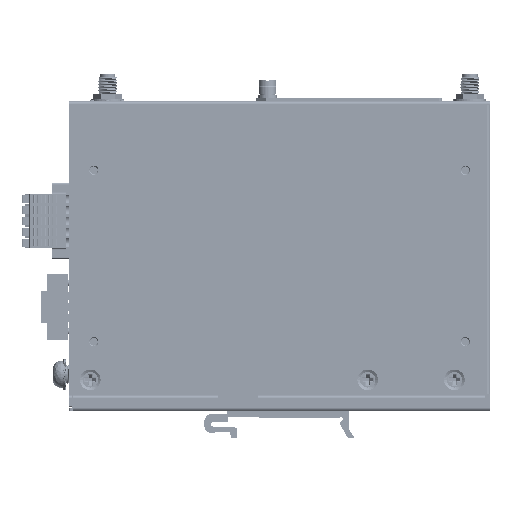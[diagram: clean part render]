
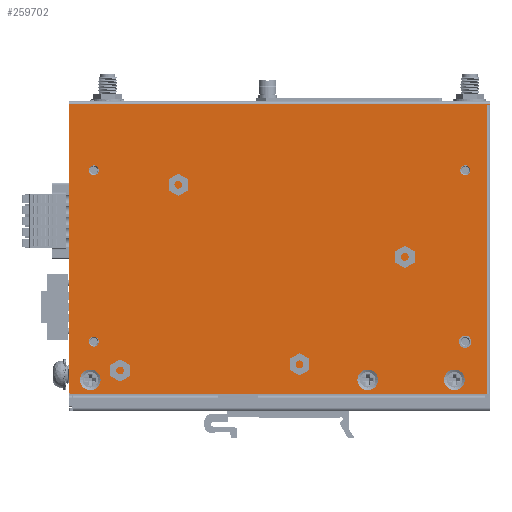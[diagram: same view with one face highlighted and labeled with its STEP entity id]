
A CAD part, front view. The second image highlights one B-rep face of the part: STEP entity #259702.
In plain terms, the highlighted planar face has unit normal (0, 1, 0).
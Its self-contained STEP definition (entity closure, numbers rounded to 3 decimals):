
#255037=DIRECTION('',(1.,0.,0.));
#255038=VECTOR('',#255037,134.);
#255039=CARTESIAN_POINT('',(-66.5,-6.,-45.2));
#255040=LINE('',#255039,#255038);
#255041=DIRECTION('',(1.,0.,0.));
#255042=VECTOR('',#255041,1.);
#255043=CARTESIAN_POINT('',(67.5,-6.,48.3));
#255044=LINE('',#255043,#255042);
#255045=DIRECTION('',(0.,0.,1.));
#255046=VECTOR('',#255045,0.2);
#255047=CARTESIAN_POINT('',(68.5,-6.,48.3));
#255048=LINE('',#255047,#255046);
#255049=DIRECTION('',(0.,0.,-1.));
#255050=VECTOR('',#255049,92.7);
#255051=CARTESIAN_POINT('',(-67.5,-6.,48.5));
#255052=LINE('',#255051,#255050);
#255053=CARTESIAN_POINT('',(-66.5,-6.,-44.2));
#255054=DIRECTION('',(0.,-1.,0.));
#255055=DIRECTION('',(-1.,0.,0.));
#255056=AXIS2_PLACEMENT_3D('',#255053,#255054,#255055);
#255058=CARTESIAN_POINT('',(29.,-6.,-40.5));
#255059=DIRECTION('',(0.,1.,0.));
#255060=DIRECTION('',(1.,0.,0.));
#255061=AXIS2_PLACEMENT_3D('',#255058,#255059,#255060);
#255063=CARTESIAN_POINT('',(29.,-6.,-40.5));
#255064=DIRECTION('',(0.,1.,0.));
#255065=DIRECTION('',(-1.,0.,0.));
#255066=AXIS2_PLACEMENT_3D('',#255063,#255064,#255065);
#255068=CARTESIAN_POINT('',(57.,-6.,-40.5));
#255069=DIRECTION('',(0.,1.,0.));
#255070=DIRECTION('',(-1.,0.,0.));
#255071=AXIS2_PLACEMENT_3D('',#255068,#255069,#255070);
#255073=CARTESIAN_POINT('',(57.,-6.,-40.5));
#255074=DIRECTION('',(0.,1.,0.));
#255075=DIRECTION('',(1.,0.,0.));
#255076=AXIS2_PLACEMENT_3D('',#255073,#255074,#255075);
#255078=CARTESIAN_POINT('',(-60.65,-6.,-40.5));
#255079=DIRECTION('',(0.,1.,0.));
#255080=DIRECTION('',(1.,0.,0.));
#255081=AXIS2_PLACEMENT_3D('',#255078,#255079,#255080);
#255083=CARTESIAN_POINT('',(-60.65,-6.,-40.5));
#255084=DIRECTION('',(0.,1.,0.));
#255085=DIRECTION('',(-1.,0.,0.));
#255086=AXIS2_PLACEMENT_3D('',#255083,#255084,#255085);
#255088=CARTESIAN_POINT('',(-59.5,-6.,27.2));
#255089=DIRECTION('',(0.,1.,0.));
#255090=DIRECTION('',(-1.,0.,0.));
#255091=AXIS2_PLACEMENT_3D('',#255088,#255089,#255090);
#255093=CARTESIAN_POINT('',(-59.5,-6.,27.2));
#255094=DIRECTION('',(0.,1.,0.));
#255095=DIRECTION('',(1.,0.,0.));
#255096=AXIS2_PLACEMENT_3D('',#255093,#255094,#255095);
#255098=CARTESIAN_POINT('',(-59.5,-6.,-28.2));
#255099=DIRECTION('',(0.,1.,0.));
#255100=DIRECTION('',(-1.,0.,0.));
#255101=AXIS2_PLACEMENT_3D('',#255098,#255099,#255100);
#255103=CARTESIAN_POINT('',(-59.5,-6.,-28.2));
#255104=DIRECTION('',(0.,1.,0.));
#255105=DIRECTION('',(1.,0.,0.));
#255106=AXIS2_PLACEMENT_3D('',#255103,#255104,#255105);
#255108=CARTESIAN_POINT('',(60.5,-6.,27.2));
#255109=DIRECTION('',(0.,1.,0.));
#255110=DIRECTION('',(-1.,0.,0.));
#255111=AXIS2_PLACEMENT_3D('',#255108,#255109,#255110);
#255113=CARTESIAN_POINT('',(60.5,-6.,27.2));
#255114=DIRECTION('',(0.,1.,0.));
#255115=DIRECTION('',(1.,0.,0.));
#255116=AXIS2_PLACEMENT_3D('',#255113,#255114,#255115);
#255118=CARTESIAN_POINT('',(60.5,-6.,-28.2));
#255119=DIRECTION('',(0.,1.,0.));
#255120=DIRECTION('',(-1.,0.,0.));
#255121=AXIS2_PLACEMENT_3D('',#255118,#255119,#255120);
#255123=CARTESIAN_POINT('',(60.5,-6.,-28.2));
#255124=DIRECTION('',(0.,1.,0.));
#255125=DIRECTION('',(1.,0.,0.));
#255126=AXIS2_PLACEMENT_3D('',#255123,#255124,#255125);
#255281=DIRECTION('',(0.,0.,1.));
#255282=VECTOR('',#255281,93.5);
#255283=CARTESIAN_POINT('',(67.5,-6.,-45.2));
#255284=LINE('',#255283,#255282);
#255784=DIRECTION('',(-1.,0.,0.));
#255785=VECTOR('',#255784,136.);
#255786=CARTESIAN_POINT('',(68.5,-6.,48.5));
#255787=LINE('',#255786,#255785);
#257679=CARTESIAN_POINT('',(67.5,-6.,48.3));
#257680=VERTEX_POINT('',#257679);
#258373=CARTESIAN_POINT('',(-57.318,-6.,-40.5));
#258374=CARTESIAN_POINT('',(-63.982,-6.,-40.5));
#258375=VERTEX_POINT('',#258373);
#258376=VERTEX_POINT('',#258374);
#258377=CARTESIAN_POINT('',(32.332,-6.,-40.5));
#258378=CARTESIAN_POINT('',(25.668,-6.,-40.5));
#258379=VERTEX_POINT('',#258377);
#258380=VERTEX_POINT('',#258378);
#258381=CARTESIAN_POINT('',(53.668,-6.,-40.5));
#258382=CARTESIAN_POINT('',(60.332,-6.,-40.5));
#258383=VERTEX_POINT('',#258381);
#258384=VERTEX_POINT('',#258382);
#258385=CARTESIAN_POINT('',(-67.5,-6.,48.5));
#258386=CARTESIAN_POINT('',(-67.5,-6.,-44.2));
#258387=VERTEX_POINT('',#258385);
#258388=VERTEX_POINT('',#258386);
#258389=CARTESIAN_POINT('',(-66.5,-6.,-45.2));
#258390=VERTEX_POINT('',#258389);
#258391=CARTESIAN_POINT('',(67.5,-6.,-45.2));
#258392=VERTEX_POINT('',#258391);
#258393=CARTESIAN_POINT('',(68.5,-6.,48.3));
#258394=VERTEX_POINT('',#258393);
#258395=CARTESIAN_POINT('',(68.5,-6.,48.5));
#258396=VERTEX_POINT('',#258395);
#258397=CARTESIAN_POINT('',(-61.1,-6.,27.2));
#258398=CARTESIAN_POINT('',(-57.9,-6.,27.2));
#258399=VERTEX_POINT('',#258397);
#258400=VERTEX_POINT('',#258398);
#258401=CARTESIAN_POINT('',(-61.1,-6.,-28.2));
#258402=CARTESIAN_POINT('',(-57.9,-6.,-28.2));
#258403=VERTEX_POINT('',#258401);
#258404=VERTEX_POINT('',#258402);
#258405=CARTESIAN_POINT('',(58.9,-6.,27.2));
#258406=CARTESIAN_POINT('',(62.1,-6.,27.2));
#258407=VERTEX_POINT('',#258405);
#258408=VERTEX_POINT('',#258406);
#258409=CARTESIAN_POINT('',(58.5,-6.,-28.2));
#258410=CARTESIAN_POINT('',(62.5,-6.,-28.2));
#258411=VERTEX_POINT('',#258409);
#258412=VERTEX_POINT('',#258410);
#259641=CARTESIAN_POINT('',(0.5,-6.,1.65));
#259642=DIRECTION('',(0.,1.,0.));
#259643=DIRECTION('',(1.,0.,0.));
#259644=AXIS2_PLACEMENT_3D('',#259641,#259642,#259643);
#259645=PLANE('',#259644);
#259647=ORIENTED_EDGE('',*,*,#259646,.T.);
#259649=ORIENTED_EDGE('',*,*,#259648,.T.);
#259650=ORIENTED_EDGE('',*,*,#259634,.T.);
#259651=ORIENTED_EDGE('',*,*,#259621,.T.);
#259653=ORIENTED_EDGE('',*,*,#259652,.T.);
#259655=ORIENTED_EDGE('',*,*,#259654,.T.);
#259657=ORIENTED_EDGE('',*,*,#259656,.T.);
#259658=EDGE_LOOP('',(#259647,#259649,#259650,#259651,#259653,#259655,#259657));
#259659=FACE_OUTER_BOUND('',#259658,.F.);
#259661=ORIENTED_EDGE('',*,*,#259660,.T.);
#259663=ORIENTED_EDGE('',*,*,#259662,.T.);
#259664=EDGE_LOOP('',(#259661,#259663));
#259665=FACE_BOUND('',#259664,.F.);
#259667=ORIENTED_EDGE('',*,*,#259666,.T.);
#259669=ORIENTED_EDGE('',*,*,#259668,.T.);
#259670=EDGE_LOOP('',(#259667,#259669));
#259671=FACE_BOUND('',#259670,.F.);
#259673=ORIENTED_EDGE('',*,*,#259672,.T.);
#259675=ORIENTED_EDGE('',*,*,#259674,.T.);
#259676=EDGE_LOOP('',(#259673,#259675));
#259677=FACE_BOUND('',#259676,.F.);
#259679=ORIENTED_EDGE('',*,*,#259678,.T.);
#259681=ORIENTED_EDGE('',*,*,#259680,.T.);
#259682=EDGE_LOOP('',(#259679,#259681));
#259683=FACE_BOUND('',#259682,.F.);
#259685=ORIENTED_EDGE('',*,*,#259684,.T.);
#259687=ORIENTED_EDGE('',*,*,#259686,.T.);
#259688=EDGE_LOOP('',(#259685,#259687));
#259689=FACE_BOUND('',#259688,.F.);
#259691=ORIENTED_EDGE('',*,*,#259690,.T.);
#259693=ORIENTED_EDGE('',*,*,#259692,.T.);
#259694=EDGE_LOOP('',(#259691,#259693));
#259695=FACE_BOUND('',#259694,.F.);
#259697=ORIENTED_EDGE('',*,*,#259696,.T.);
#259699=ORIENTED_EDGE('',*,*,#259698,.T.);
#259700=EDGE_LOOP('',(#259697,#259699));
#259701=FACE_BOUND('',#259700,.F.);
#259702=ADVANCED_FACE('',(#259659,#259665,#259671,#259677,#259683,#259689,
#259695,#259701),#259645,.T.);
#255057=CIRCLE('',#255056,1.);
#255062=CIRCLE('',#255061,3.332);
#255067=CIRCLE('',#255066,3.332);
#255072=CIRCLE('',#255071,3.332);
#255077=CIRCLE('',#255076,3.332);
#255082=CIRCLE('',#255081,3.332);
#255087=CIRCLE('',#255086,3.332);
#255092=CIRCLE('',#255091,1.6);
#255097=CIRCLE('',#255096,1.6);
#255102=CIRCLE('',#255101,1.6);
#255107=CIRCLE('',#255106,1.6);
#255112=CIRCLE('',#255111,1.6);
#255117=CIRCLE('',#255116,1.6);
#255122=CIRCLE('',#255121,2.);
#255127=CIRCLE('',#255126,2.);
#259621=EDGE_CURVE('',#258394,#258396,#255048,.T.);
#259634=EDGE_CURVE('',#257680,#258394,#255044,.T.);
#259646=EDGE_CURVE('',#258390,#258392,#255040,.T.);
#259648=EDGE_CURVE('',#258392,#257680,#255284,.T.);
#259652=EDGE_CURVE('',#258396,#258387,#255787,.T.);
#259654=EDGE_CURVE('',#258387,#258388,#255052,.T.);
#259656=EDGE_CURVE('',#258388,#258390,#255057,.T.);
#259660=EDGE_CURVE('',#258379,#258380,#255062,.T.);
#259662=EDGE_CURVE('',#258380,#258379,#255067,.T.);
#259666=EDGE_CURVE('',#258383,#258384,#255072,.T.);
#259668=EDGE_CURVE('',#258384,#258383,#255077,.T.);
#259672=EDGE_CURVE('',#258375,#258376,#255082,.T.);
#259674=EDGE_CURVE('',#258376,#258375,#255087,.T.);
#259678=EDGE_CURVE('',#258399,#258400,#255092,.T.);
#259680=EDGE_CURVE('',#258400,#258399,#255097,.T.);
#259684=EDGE_CURVE('',#258403,#258404,#255102,.T.);
#259686=EDGE_CURVE('',#258404,#258403,#255107,.T.);
#259690=EDGE_CURVE('',#258407,#258408,#255112,.T.);
#259692=EDGE_CURVE('',#258408,#258407,#255117,.T.);
#259696=EDGE_CURVE('',#258411,#258412,#255122,.T.);
#259698=EDGE_CURVE('',#258412,#258411,#255127,.T.);
